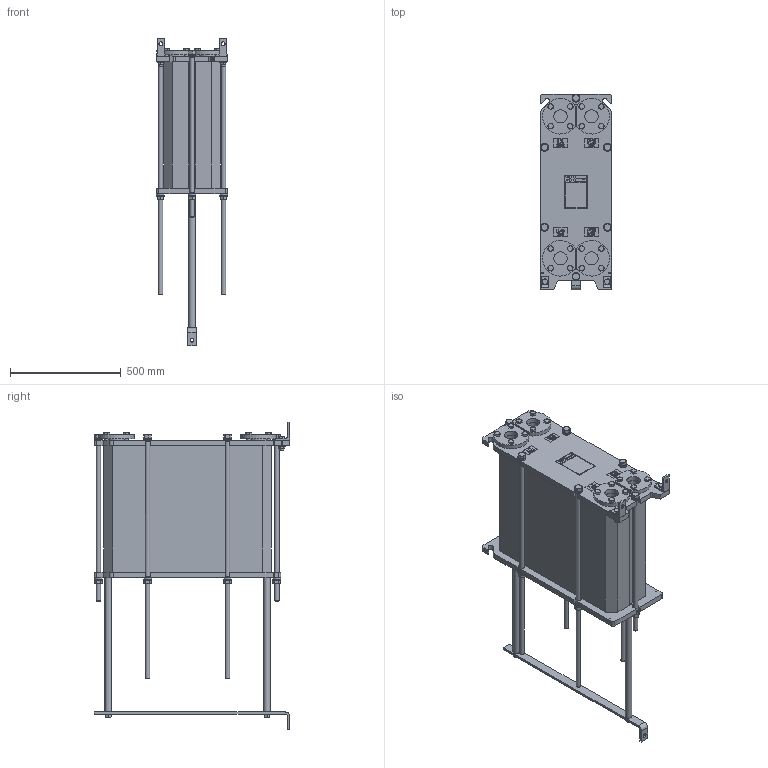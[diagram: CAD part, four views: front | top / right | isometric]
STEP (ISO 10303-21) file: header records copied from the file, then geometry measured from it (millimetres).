
FILE_DESCRIPTION (( 'STEP AP214' ), '1' );
FILE_NAME ('ÏÒ SX50 ðåä 4 ê ñèãìà 181...240.STEP', '2021-04-04T18:29:08', ( '' ), ( '' ), 'SwSTEP 2.0', 'SolidWorks 2018', '' );
FILE_SCHEMA (( 'AUTOMOTIVE_DESIGN' ));
Length unit declared in the file: millimetre
Products named in the file (3): ÏÒ SX50 ðåä 4 ê ñèãìà1; ÏÒ SX50 ðåä 4 ê ñèãìà 181...240; ÏÒ SX50 ðåä 4 ê ñèãìà2 181...240
Assembly tree (2 placements, depth 2):
  ÏÒ SX50 ðåä 4 ê ñèãìà 181...240
    ÏÒ SX50 ðåä 4 ê ñèãìà2 181...240
    ÏÒ SX50 ðåä 4 ê ñèãìà1
Bounding box: 320 x 880 x 1385 mm (x, y, z)
Volume: 119200675.2 mm3; surface area: 4234878.3 mm2
Topology: 28 solids, 34 shells, 2016 faces, 4909 edges, 3140 vertices
Faces by surface type: plane 1036, cone 430, bspline 275, cylinder 241, torus 34
Full cylindrical faces by diameter (mm): 16 x44, 17 x4, 18 x25, 20 x12, 21 x12, 27 x12, 29.48 x2, 30 x8, 36 x12, 60 x8, 60.01 x4, 60.2 x4, 72.4 x4
Entity records: 89000 total; most frequent: CARTESIAN_POINT 23698, ORIENTED_EDGE 9012, DIRECTION 7808, EDGE_CURVE 4506, VERTEX_POINT 3052, AXIS2_PLACEMENT_3D 2706, EDGE_LOOP 2616, VECTOR 2396
